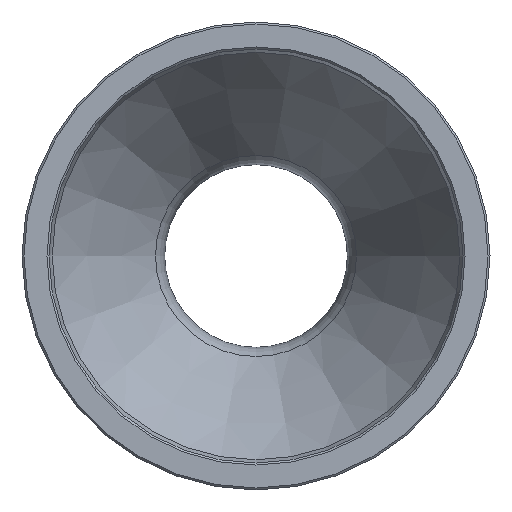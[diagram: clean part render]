
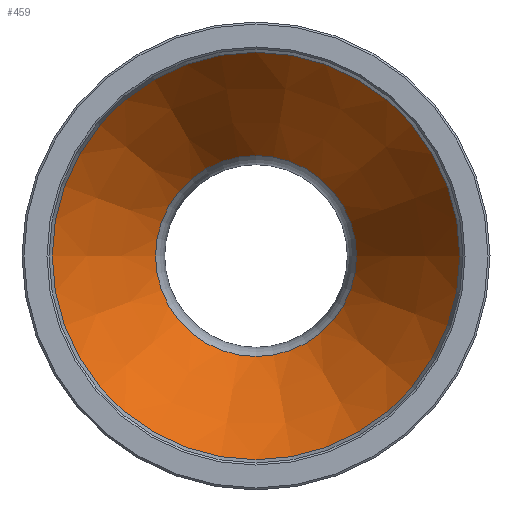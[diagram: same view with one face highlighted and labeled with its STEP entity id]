
A CAD part, left-side view. The second image highlights one B-rep face of the part: STEP entity #459.
In plain terms, the highlighted conical face has half-angle 30.969 degrees and reference radius 15.231 mm.
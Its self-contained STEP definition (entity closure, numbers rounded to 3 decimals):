
#425=CARTESIAN_POINT('',(-5.99,10.062,0.0));
#426=VERTEX_POINT('',#425);
#427=CARTESIAN_POINT('',(-5.99,0.0,0.0));
#428=DIRECTION('',(1.0,0.0,0.0));
#429=DIRECTION('',(0.0,1.0,0.0));
#430=AXIS2_PLACEMENT_3D('',#427,#428,#429);
#431=CIRCLE('',#430,10.062);
#432=EDGE_CURVE('',#426,#426,#431,.T.);
#440=CARTESIAN_POINT('',(-14.603,0.0,0.0));
#441=DIRECTION('',(-1.0,0.0,0.0));
#442=DIRECTION('',(0.0,1.0,0.0));
#443=AXIS2_PLACEMENT_3D('',#440,#441,#442);
#444=CONICAL_SURFACE('',#443,15.231,30.969);
#445=CARTESIAN_POINT('',(-23.216,20.4,0.0));
#446=VERTEX_POINT('',#445);
#447=CARTESIAN_POINT('',(-23.216,0.0,0.0));
#448=DIRECTION('',(1.0,0.0,0.0));
#449=DIRECTION('',(0.0,1.0,0.0));
#450=AXIS2_PLACEMENT_3D('',#447,#448,#449);
#451=CIRCLE('',#450,20.4);
#452=EDGE_CURVE('',#446,#446,#451,.T.);
#453=ORIENTED_EDGE('',*,*,#452,.F.);
#454=EDGE_LOOP('',(#453));
#455=FACE_OUTER_BOUND('',#454,.T.);
#456=ORIENTED_EDGE('',*,*,#432,.T.);
#457=EDGE_LOOP('',(#456));
#458=FACE_BOUND('',#457,.T.);
#459=ADVANCED_FACE('',(#455,#458),#444,.F.);
